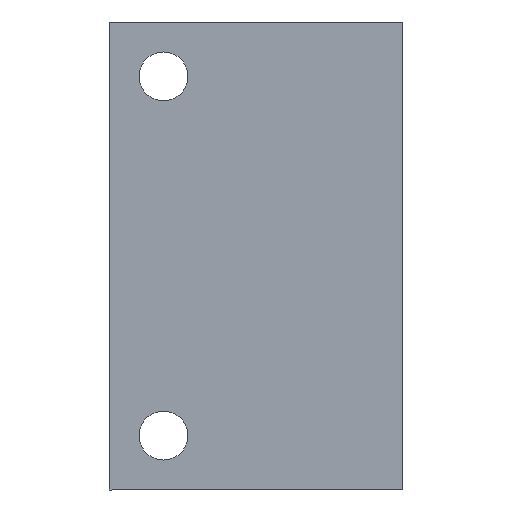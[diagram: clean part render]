
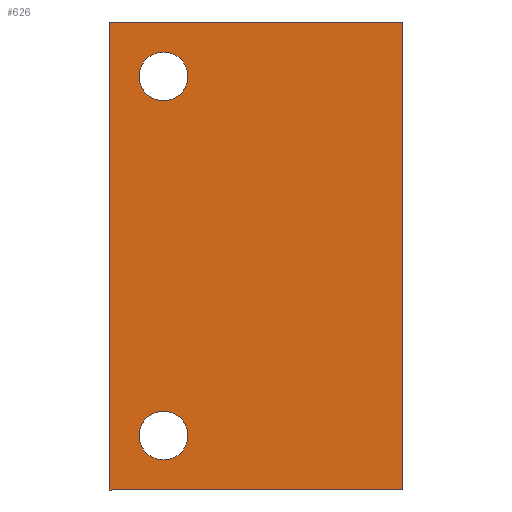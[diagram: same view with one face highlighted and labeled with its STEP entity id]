
A CAD part, front view. The second image highlights one B-rep face of the part: STEP entity #626.
In plain terms, the highlighted planar face has unit normal (0, -1, 0).
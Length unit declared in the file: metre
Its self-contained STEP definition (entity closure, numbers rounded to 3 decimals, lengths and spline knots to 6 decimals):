
#40=CIRCLE('',#690,0.00225);
#41=CIRCLE('',#691,0.00225);
#164=ORIENTED_EDGE('',*,*,#279,.T.);
#165=ORIENTED_EDGE('',*,*,#280,.T.);
#166=ORIENTED_EDGE('',*,*,#263,.F.);
#167=ORIENTED_EDGE('',*,*,#216,.F.);
#168=ORIENTED_EDGE('',*,*,#281,.T.);
#169=ORIENTED_EDGE('',*,*,#233,.T.);
#216=EDGE_CURVE('',#295,#296,#354,.T.);
#233=EDGE_CURVE('',#312,#311,#369,.T.);
#263=EDGE_CURVE('',#296,#311,#392,.T.);
#279=EDGE_CURVE('',#340,#340,#40,.T.);
#280=EDGE_CURVE('',#341,#341,#41,.T.);
#281=EDGE_CURVE('',#295,#312,#401,.T.);
#295=VERTEX_POINT('',#902);
#296=VERTEX_POINT('',#904);
#311=VERTEX_POINT('',#936);
#312=VERTEX_POINT('',#938);
#340=VERTEX_POINT('',#1027);
#341=VERTEX_POINT('',#1029);
#354=LINE('',#903,#414);
#369=LINE('',#937,#429);
#392=LINE('',#993,#452);
#401=LINE('',#1030,#461);
#414=VECTOR('',#729,1.);
#429=VECTOR('',#750,1.);
#452=VECTOR('',#801,1.);
#461=VECTOR('',#844,1.);
#498=EDGE_LOOP('',(#164));
#499=EDGE_LOOP('',(#165));
#500=EDGE_LOOP('',(#166,#167,#168,#169));
#560=FACE_BOUND('',#498,.T.);
#561=FACE_BOUND('',#499,.T.);
#562=FACE_BOUND('',#500,.T.);
#604=PLANE('',#689);
#626=ADVANCED_FACE('',(#560,#561,#562),#604,.F.);
#689=AXIS2_PLACEMENT_3D('',#1025,#838,#839);
#690=AXIS2_PLACEMENT_3D('',#1026,#840,#841);
#691=AXIS2_PLACEMENT_3D('',#1028,#842,#843);
#729=DIRECTION('',(1.,0.,0.));
#750=DIRECTION('',(1.,0.,0.));
#801=DIRECTION('',(0.,0.,-1.));
#838=DIRECTION('',(0.,1.,0.));
#839=DIRECTION('',(1.,0.,0.));
#840=DIRECTION('',(0.,1.,0.));
#841=DIRECTION('',(-1.,0.,0.));
#842=DIRECTION('',(0.,1.,0.));
#843=DIRECTION('',(-1.,0.,0.));
#844=DIRECTION('',(0.,0.,-1.));
#902=CARTESIAN_POINT('',(-0.085677,-0.036184,-0.004201));
#903=CARTESIAN_POINT('',(-0.085677,-0.036184,-0.004201));
#904=CARTESIAN_POINT('',(-0.058677,-0.036184,-0.004201));
#936=CARTESIAN_POINT('',(-0.058677,-0.036184,-0.047201));
#937=CARTESIAN_POINT('',(-0.085677,-0.036184,-0.047201));
#938=CARTESIAN_POINT('',(-0.085677,-0.036184,-0.047201));
#993=CARTESIAN_POINT('',(-0.058677,-0.036184,-0.006701));
#1025=CARTESIAN_POINT('',(-0.085677,-0.036184,-0.006701));
#1026=CARTESIAN_POINT('',(-0.080677,-0.036184,-0.009201));
#1027=CARTESIAN_POINT('',(-0.082927,-0.036184,-0.009201));
#1028=CARTESIAN_POINT('',(-0.080677,-0.036184,-0.042201));
#1029=CARTESIAN_POINT('',(-0.082927,-0.036184,-0.042201));
#1030=CARTESIAN_POINT('',(-0.085677,-0.036184,-0.006701));
